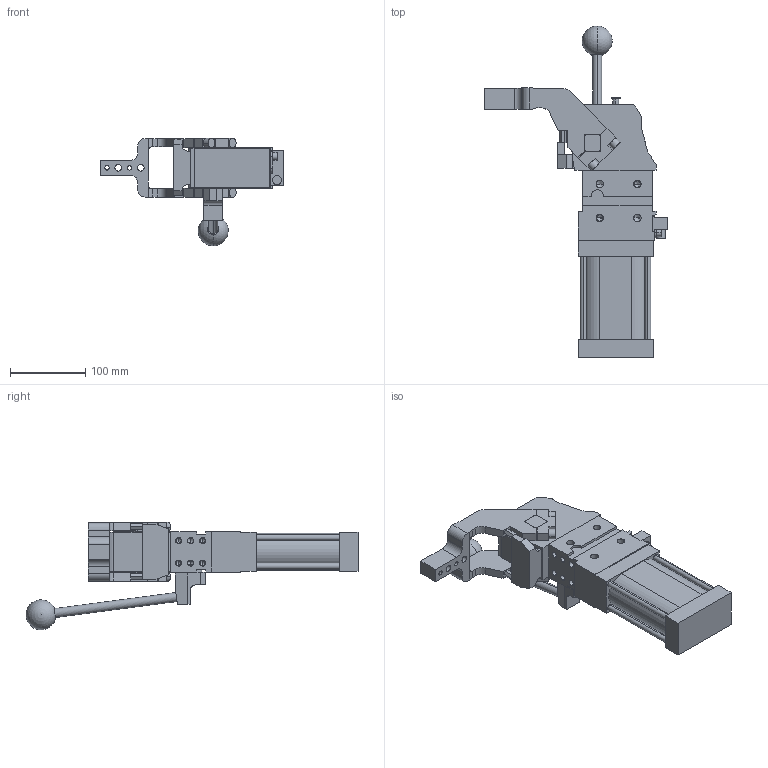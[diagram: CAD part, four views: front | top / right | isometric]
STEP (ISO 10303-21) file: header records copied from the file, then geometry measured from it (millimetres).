
FILE_DESCRIPTION (( 'STEP AP214' ), '1' );
FILE_NAME ('cplm63lbtv3ci1g_135.STEP', '2023-01-26T15:06:33', ( '' ), ( '' ), 'SwSTEP 2.0', 'SolidWorks 2022', '' );
FILE_SCHEMA (( 'AUTOMOTIVE_DESIGN' ));
Length unit declared in the file: millimetre
Products named in the file (5): blocchetto_VEP_0; meccanica_cplm_63_tassello_esterno; leva_v3c_cpl63t; cplm63lbtv3ci1g_135; comando_manuale_cplm_63
Assembly tree (4 placements, depth 2):
  cplm63lbtv3ci1g_135
    meccanica_cplm_63_tassello_esterno
    blocchetto_VEP_0
    leva_v3c_cpl63t
    comando_manuale_cplm_63
Bounding box: 244.5 x 442.23 x 143.5 mm (x, y, z)
Volume: 1909450 mm3; surface area: 217197.7 mm2
Topology: 4 solids, 4 shells, 465 faces, 1227 edges, 765 vertices
Faces by surface type: plane 250, cylinder 163, cone 50, sphere 2
Entity records: 15626 total; most frequent: CARTESIAN_POINT 2486, DIRECTION 2478, ORIENTED_EDGE 2352, EDGE_CURVE 1176, AXIS2_PLACEMENT_3D 836, LINE 806, VECTOR 806, VERTEX_POINT 762
